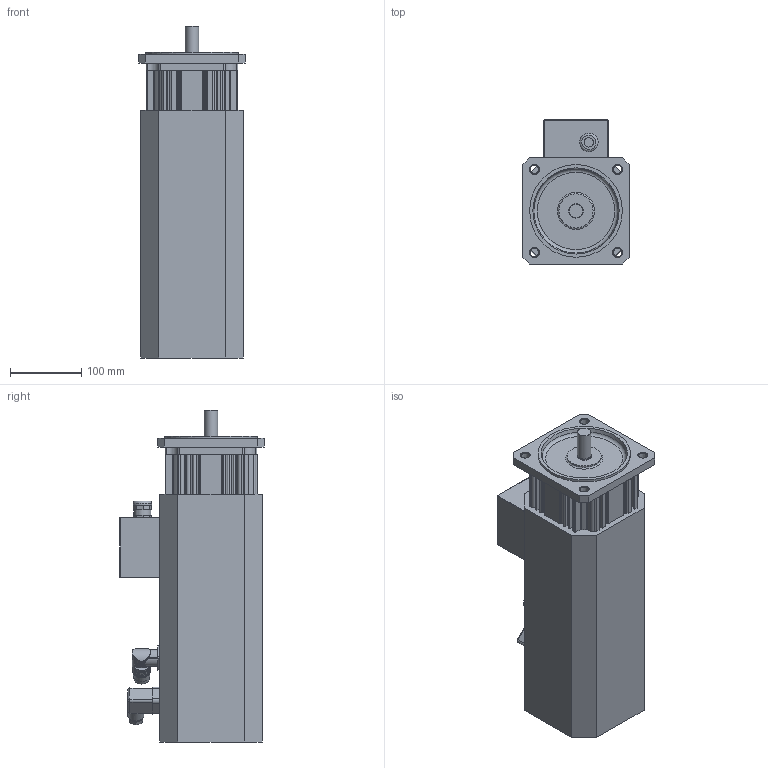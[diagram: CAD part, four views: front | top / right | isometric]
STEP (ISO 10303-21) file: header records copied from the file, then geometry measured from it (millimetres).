
FILE_DESCRIPTION(/* description */ (''),/* implementation_level */ '2;1');
FILE_NAME(/* name */ 'KSA648_MC_FS_Ix',/* time_stamp */ '2009-02-26T15:56:44+01:00',/* author */ (''),/* organization */ (''),/* preprocessor_version */ 'ST-DEVELOPER v8',/* originating_system */ 'UNIGRAPHICS SOLUTIONS - UNIGRAPHICS 18.0',/* authorisation */ '');
FILE_SCHEMA (('AUTOMOTIVE_DESIGN { 1 2 10303 214 0 1 1 1 }'));
Length unit declared in the file: millimetre
Products named in the file (8): 0280391350_0; Winkelflanschdose_0; 014146_0; 014145_0; LagerschAS_0; 089106X_0; Klemmenkasten_0; KSA648_MC_FS_Ix_0
Assembly tree (7 placements, depth 3):
  KSA648_MC_FS_Ix_0
    089106X_0
    LagerschAS_0
    Klemmenkasten_0
      0280391350_0
    014145_0
    014146_0
    Winkelflanschdose_0
Bounding box: 149 x 202.35 x 466 mm (x, y, z)
Volume: 8146866.3 mm3; surface area: 522906.4 mm2
Topology: 8 solids, 8 shells, 762 faces, 2109 edges, 1383 vertices
Faces by surface type: cylinder 447, plane 283, cone 16, sphere 8, torus 4, bspline 4
Full cylindrical faces by diameter (mm): 3.2 x1, 3.5 x4, 4.5 x1, 5 x2, 6.5 x4, 13 x2, 16 x1, 17 x1, 18 x1, 19 x1, 20 x3, 21 x1, 21.5 x1, 22.5 x1, 23 x2, 24 x1, 26 x1, 48 x1, 119.7 x2, 122 x1, 130 x1
Entity records: 24850 total; most frequent: CARTESIAN_POINT 4930, DIRECTION 4230, ORIENTED_EDGE 4082, EDGE_CURVE 2041, AXIS2_PLACEMENT_3D 1579, VERTEX_POINT 1372, LINE 1072, VECTOR 1072
